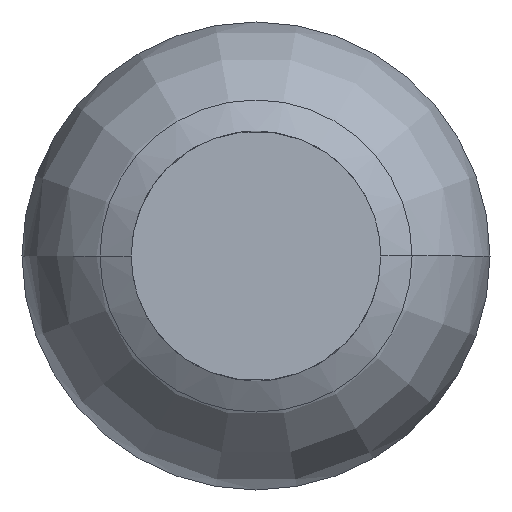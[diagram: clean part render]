
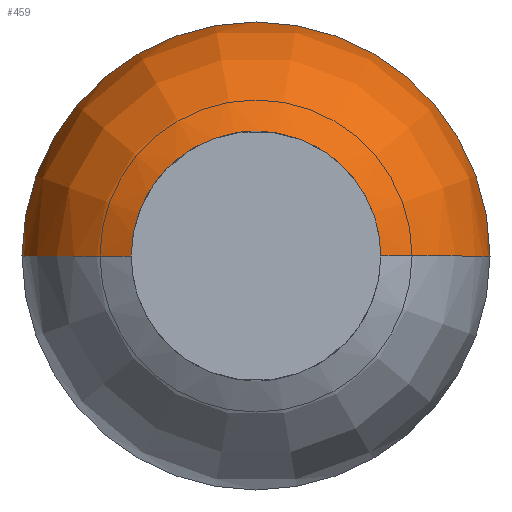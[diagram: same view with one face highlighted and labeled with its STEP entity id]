
A CAD part, front view. The second image highlights one B-rep face of the part: STEP entity #459.
In plain terms, the highlighted face is a revolution surface.
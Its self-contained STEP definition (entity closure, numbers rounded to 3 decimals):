
#282=CARTESIAN_POINT('',(0.,1478.911,0.));
#283=DIRECTION('',(0.,-1.,0.));
#284=DIRECTION('',(1.,0.,0.));
#285=AXIS2_PLACEMENT_3D('',#282,#283,#284);
#291=CARTESIAN_POINT('',(0.,1473.457,0.));
#292=DIRECTION('',(0.,-1.,0.));
#293=DIRECTION('',(1.,0.,0.));
#294=AXIS2_PLACEMENT_3D('',#291,#292,#293);
#296=CARTESIAN_POINT('',(4.,1473.457,0.));
#297=CARTESIAN_POINT('',(4.117,1473.51,0.));
#298=CARTESIAN_POINT('',(4.35,1473.617,0.));
#299=CARTESIAN_POINT('',(4.701,1473.796,0.));
#300=CARTESIAN_POINT('',(5.051,1474.006,0.));
#301=CARTESIAN_POINT('',(5.397,1474.254,0.));
#302=CARTESIAN_POINT('',(5.734,1474.541,0.));
#303=CARTESIAN_POINT('',(6.056,1474.867,0.));
#304=CARTESIAN_POINT('',(6.357,1475.229,0.));
#305=CARTESIAN_POINT('',(6.63,1475.619,0.));
#306=CARTESIAN_POINT('',(6.871,1476.03,0.));
#307=CARTESIAN_POINT('',(7.074,1476.454,0.));
#308=CARTESIAN_POINT('',(7.237,1476.882,0.));
#309=CARTESIAN_POINT('',(7.358,1477.308,0.));
#310=CARTESIAN_POINT('',(7.438,1477.726,0.));
#311=CARTESIAN_POINT('',(7.483,1478.132,0.));
#312=CARTESIAN_POINT('',(7.5,1478.526,0.));
#313=CARTESIAN_POINT('',(7.5,1478.783,0.));
#314=CARTESIAN_POINT('',(7.5,1478.911,0.));
#321=CARTESIAN_POINT('',(-4.,1473.457,
-0.001));
#322=CARTESIAN_POINT('',(-4.117,1473.51,
-0.001));
#323=CARTESIAN_POINT('',(-4.35,1473.617,
-0.001));
#324=CARTESIAN_POINT('',(-4.701,1473.796,
-0.001));
#325=CARTESIAN_POINT('',(-5.051,1474.006,
-0.001));
#326=CARTESIAN_POINT('',(-5.397,1474.254,
-0.001));
#327=CARTESIAN_POINT('',(-5.734,1474.541,
0.));
#328=CARTESIAN_POINT('',(-6.056,1474.867,
0.));
#329=CARTESIAN_POINT('',(-6.357,1475.229,
0.));
#330=CARTESIAN_POINT('',(-6.63,1475.619,
0.));
#331=CARTESIAN_POINT('',(-6.871,1476.03,
0.));
#332=CARTESIAN_POINT('',(-7.074,1476.454,
0.));
#333=CARTESIAN_POINT('',(-7.237,1476.882,
0.));
#334=CARTESIAN_POINT('',(-7.358,1477.308,
0.));
#335=CARTESIAN_POINT('',(-7.438,1477.726,
0.));
#336=CARTESIAN_POINT('',(-7.483,1478.132,
0.));
#337=CARTESIAN_POINT('',(-7.5,1478.526,
0.));
#338=CARTESIAN_POINT('',(-7.5,1478.783,0.));
#339=CARTESIAN_POINT('',(-7.5,1478.911,0.));
#346=CARTESIAN_POINT('',(-4.,1473.457,
-0.001));
#347=CARTESIAN_POINT('',(4.,1473.457,0.));
#348=VERTEX_POINT('',#346);
#349=VERTEX_POINT('',#347);
#350=CARTESIAN_POINT('',(-7.5,1478.911,0.));
#351=CARTESIAN_POINT('',(7.5,1478.911,0.));
#352=VERTEX_POINT('',#350);
#353=VERTEX_POINT('',#351);
#434=CARTESIAN_POINT('',(7.5,1479.034,-0.001));
#435=CARTESIAN_POINT('',(7.499,1478.767,-0.001));
#436=CARTESIAN_POINT('',(7.504,1478.235,-0.001));
#437=CARTESIAN_POINT('',(7.396,1477.381,0.));
#438=CARTESIAN_POINT('',(7.112,1476.486,0.));
#439=CARTESIAN_POINT('',(6.649,1475.607,0.));
#440=CARTESIAN_POINT('',(6.043,1474.82,0.));
#441=CARTESIAN_POINT('',(5.347,1474.188,0.));
#442=CARTESIAN_POINT('',(4.617,1473.734,0.));
#443=CARTESIAN_POINT('',(4.131,1473.517,0.));
#444=CARTESIAN_POINT('',(3.888,1473.405,0.));
#446=CARTESIAN_POINT('',(0.,1478.911,0.));
#447=DIRECTION('',(0.,-1.,0.));
#448=AXIS1_PLACEMENT('',#446,#447);
#449=SURFACE_OF_REVOLUTION('',#445,#448);
#451=ORIENTED_EDGE('',*,*,#450,.T.);
#453=ORIENTED_EDGE('',*,*,#452,.T.);
#454=ORIENTED_EDGE('',*,*,#428,.F.);
#456=ORIENTED_EDGE('',*,*,#455,.F.);
#457=EDGE_LOOP('',(#451,#453,#454,#456));
#458=FACE_OUTER_BOUND('',#457,.F.);
#459=ADVANCED_FACE('',(#458),#449,.T.);
#286=CIRCLE('',#285,7.5);
#295=CIRCLE('',#294,4.);
#315=B_SPLINE_CURVE_WITH_KNOTS('',3,(#296,#297,#298,#299,#300,#301,#302,#303,
#304,#305,#306,#307,#308,#309,#310,#311,#312,#313,#314),.UNSPECIFIED.,.F.,.F.,
(4,1,1,1,1,1,1,1,1,1,1,1,1,1,1,1,4),(0.,0.063,0.125,0.188,0.25,
0.313,0.375,0.438,0.5,0.563,0.625,0.688,0.75,0.813,
0.875,0.938,1.),.UNSPECIFIED.);
#340=B_SPLINE_CURVE_WITH_KNOTS('',3,(#321,#322,#323,#324,#325,#326,#327,#328,
#329,#330,#331,#332,#333,#334,#335,#336,#337,#338,#339),.UNSPECIFIED.,.F.,.F.,
(4,1,1,1,1,1,1,1,1,1,1,1,1,1,1,1,4),(0.,0.063,0.125,0.188,0.25,
0.313,0.375,0.438,0.5,0.563,0.625,0.688,0.75,0.813,
0.875,0.938,1.),.UNSPECIFIED.);
#428=EDGE_CURVE('',#353,#352,#286,.T.);
#445=B_SPLINE_CURVE_WITH_KNOTS('',3,(#434,#435,#436,#437,#438,#439,#440,#441,
#442,#443,#444),.UNSPECIFIED.,.F.,.F.,(4,1,1,1,1,1,1,1,4),(0.,0.125,0.25,
0.375,0.5,0.625,0.75,0.875,1.),.UNSPECIFIED.);
#450=EDGE_CURVE('',#349,#348,#295,.T.);
#452=EDGE_CURVE('',#348,#352,#340,.T.);
#455=EDGE_CURVE('',#349,#353,#315,.T.);
